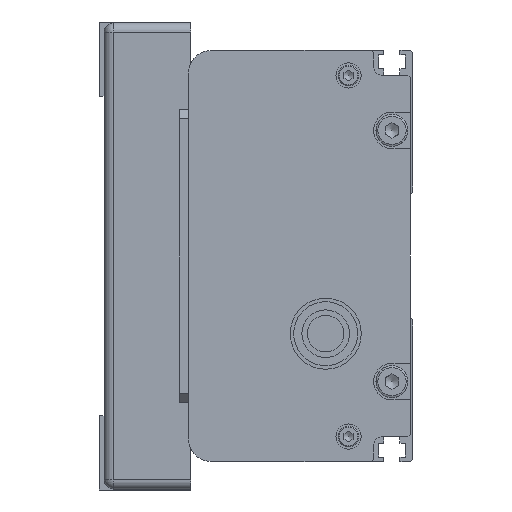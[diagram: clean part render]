
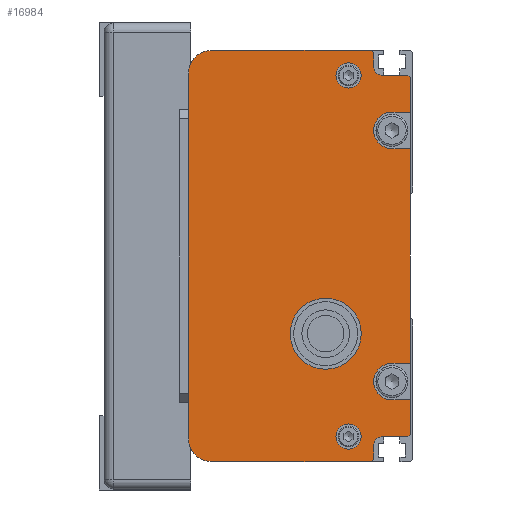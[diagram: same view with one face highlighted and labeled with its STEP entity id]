
A CAD part, left-side view. The second image highlights one B-rep face of the part: STEP entity #16984.
In plain terms, the highlighted planar face has unit normal (-1, 0, 0) as drawn and (0, 0, -1) by its records, which use the part's own axes.
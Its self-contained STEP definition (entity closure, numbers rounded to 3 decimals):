
#1080=FACE_BOUND('',#2490,.T.);
#1081=FACE_BOUND('',#2491,.T.);
#1082=FACE_BOUND('',#2492,.T.);
#1416=FACE_OUTER_BOUND('',#2489,.T.);
#2489=EDGE_LOOP('',(#11801,#11802,#11803,#11804,#11805,#11806,#11807,#11808,
#11809,#11810,#11811,#11812,#11813,#11814,#11815,#11816,#11817,#11818,#11819,
#11820,#11821,#11822,#11823,#11824));
#2490=EDGE_LOOP('',(#11825));
#2491=EDGE_LOOP('',(#11826));
#2492=EDGE_LOOP('',(#11827));
#3783=LINE('',#24613,#5281);
#3809=LINE('',#24680,#5307);
#3811=LINE('',#24685,#5309);
#3812=LINE('',#24687,#5310);
#3813=LINE('',#24690,#5311);
#3814=LINE('',#24692,#5312);
#3815=LINE('',#24694,#5313);
#3816=LINE('',#24698,#5314);
#3817=LINE('',#24700,#5315);
#3818=LINE('',#24702,#5316);
#3819=LINE('',#24706,#5317);
#3820=LINE('',#24708,#5318);
#3821=LINE('',#24710,#5319);
#3822=LINE('',#24712,#5320);
#3823=LINE('',#24716,#5321);
#3824=LINE('',#24718,#5322);
#3825=LINE('',#24719,#5323);
#3826=LINE('',#24720,#5324);
#5281=VECTOR('',#19996,80.);
#5307=VECTOR('',#20048,0.707);
#5309=VECTOR('',#20052,0.707);
#5310=VECTOR('',#20053,3.);
#5311=VECTOR('',#20056,5.5);
#5312=VECTOR('',#20057,7.5);
#5313=VECTOR('',#20058,4.);
#5314=VECTOR('',#20061,4.);
#5315=VECTOR('',#20062,47.);
#5316=VECTOR('',#20063,4.);
#5317=VECTOR('',#20066,4.);
#5318=VECTOR('',#20067,7.5);
#5319=VECTOR('',#20068,0.707);
#5320=VECTOR('',#20069,5.5);
#5321=VECTOR('',#20072,3.);
#5322=VECTOR('',#20073,0.707);
#5323=VECTOR('',#20074,35.);
#5324=VECTOR('',#20075,35.);
#6670=CIRCLE('',#18142,5.);
#6673=CIRCLE('',#18149,5.);
#6675=CIRCLE('',#18155,2.);
#6676=CIRCLE('',#18156,4.);
#6677=CIRCLE('',#18157,4.);
#6678=CIRCLE('',#18158,2.);
#6679=CIRCLE('',#18159,7.769);
#6680=CIRCLE('',#18160,2.75);
#6681=CIRCLE('',#18161,2.75);
#7277=VERTEX_POINT('',#24610);
#7278=VERTEX_POINT('',#24612);
#7279=VERTEX_POINT('',#24616);
#7282=VERTEX_POINT('',#24627);
#7305=VERTEX_POINT('',#24677);
#7306=VERTEX_POINT('',#24679);
#7307=VERTEX_POINT('',#24683);
#7308=VERTEX_POINT('',#24684);
#7309=VERTEX_POINT('',#24686);
#7310=VERTEX_POINT('',#24688);
#7311=VERTEX_POINT('',#24691);
#7312=VERTEX_POINT('',#24693);
#7313=VERTEX_POINT('',#24695);
#7314=VERTEX_POINT('',#24697);
#7315=VERTEX_POINT('',#24699);
#7316=VERTEX_POINT('',#24701);
#7317=VERTEX_POINT('',#24703);
#7318=VERTEX_POINT('',#24705);
#7319=VERTEX_POINT('',#24707);
#7320=VERTEX_POINT('',#24709);
#7321=VERTEX_POINT('',#24711);
#7322=VERTEX_POINT('',#24713);
#7323=VERTEX_POINT('',#24715);
#7324=VERTEX_POINT('',#24717);
#7325=VERTEX_POINT('',#24721);
#7326=VERTEX_POINT('',#24723);
#7327=VERTEX_POINT('',#24725);
#9063=EDGE_CURVE('',#7277,#7278,#3783,.T.);
#9065=EDGE_CURVE('',#7278,#7279,#6670,.T.);
#9070=EDGE_CURVE('',#7282,#7277,#6673,.T.);
#9094=EDGE_CURVE('',#7305,#7306,#3809,.T.);
#9096=EDGE_CURVE('',#7307,#7308,#3811,.T.);
#9097=EDGE_CURVE('',#7307,#7309,#3812,.T.);
#9098=EDGE_CURVE('',#7309,#7310,#6675,.T.);
#9099=EDGE_CURVE('',#7310,#7306,#3813,.T.);
#9100=EDGE_CURVE('',#7311,#7305,#3814,.T.);
#9101=EDGE_CURVE('',#7311,#7312,#3815,.T.);
#9102=EDGE_CURVE('',#7312,#7313,#6676,.T.);
#9103=EDGE_CURVE('',#7313,#7314,#3816,.T.);
#9104=EDGE_CURVE('',#7315,#7314,#3817,.T.);
#9105=EDGE_CURVE('',#7315,#7316,#3818,.T.);
#9106=EDGE_CURVE('',#7316,#7317,#6677,.T.);
#9107=EDGE_CURVE('',#7317,#7318,#3819,.T.);
#9108=EDGE_CURVE('',#7319,#7318,#3820,.T.);
#9109=EDGE_CURVE('',#7320,#7319,#3821,.T.);
#9110=EDGE_CURVE('',#7320,#7321,#3822,.T.);
#9111=EDGE_CURVE('',#7321,#7322,#6678,.T.);
#9112=EDGE_CURVE('',#7322,#7323,#3823,.T.);
#9113=EDGE_CURVE('',#7324,#7323,#3824,.T.);
#9114=EDGE_CURVE('',#7279,#7324,#3825,.T.);
#9115=EDGE_CURVE('',#7308,#7282,#3826,.T.);
#9116=EDGE_CURVE('',#7325,#7325,#6679,.T.);
#9117=EDGE_CURVE('',#7326,#7326,#6680,.T.);
#9118=EDGE_CURVE('',#7327,#7327,#6681,.T.);
#11801=ORIENTED_EDGE('',*,*,#9096,.F.);
#11802=ORIENTED_EDGE('',*,*,#9097,.T.);
#11803=ORIENTED_EDGE('',*,*,#9098,.T.);
#11804=ORIENTED_EDGE('',*,*,#9099,.T.);
#11805=ORIENTED_EDGE('',*,*,#9094,.F.);
#11806=ORIENTED_EDGE('',*,*,#9100,.F.);
#11807=ORIENTED_EDGE('',*,*,#9101,.T.);
#11808=ORIENTED_EDGE('',*,*,#9102,.T.);
#11809=ORIENTED_EDGE('',*,*,#9103,.T.);
#11810=ORIENTED_EDGE('',*,*,#9104,.F.);
#11811=ORIENTED_EDGE('',*,*,#9105,.T.);
#11812=ORIENTED_EDGE('',*,*,#9106,.T.);
#11813=ORIENTED_EDGE('',*,*,#9107,.T.);
#11814=ORIENTED_EDGE('',*,*,#9108,.F.);
#11815=ORIENTED_EDGE('',*,*,#9109,.F.);
#11816=ORIENTED_EDGE('',*,*,#9110,.T.);
#11817=ORIENTED_EDGE('',*,*,#9111,.T.);
#11818=ORIENTED_EDGE('',*,*,#9112,.T.);
#11819=ORIENTED_EDGE('',*,*,#9113,.F.);
#11820=ORIENTED_EDGE('',*,*,#9114,.F.);
#11821=ORIENTED_EDGE('',*,*,#9065,.F.);
#11822=ORIENTED_EDGE('',*,*,#9063,.F.);
#11823=ORIENTED_EDGE('',*,*,#9070,.F.);
#11824=ORIENTED_EDGE('',*,*,#9115,.F.);
#11825=ORIENTED_EDGE('',*,*,#9116,.T.);
#11826=ORIENTED_EDGE('',*,*,#9117,.T.);
#11827=ORIENTED_EDGE('',*,*,#9118,.T.);
#16372=PLANE('',#18154);
#16984=ADVANCED_FACE('',(#1416,#1080,#1081,#1082),#16372,.F.);
#18142=AXIS2_PLACEMENT_3D('',#24617,#20000,#20001);
#18149=AXIS2_PLACEMENT_3D('',#24629,#20016,#20017);
#18154=AXIS2_PLACEMENT_3D('',#24682,#20050,#20051);
#18155=AXIS2_PLACEMENT_3D('',#24689,#20054,#20055);
#18156=AXIS2_PLACEMENT_3D('',#24696,#20059,#20060);
#18157=AXIS2_PLACEMENT_3D('',#24704,#20064,#20065);
#18158=AXIS2_PLACEMENT_3D('',#24714,#20070,#20071);
#18159=AXIS2_PLACEMENT_3D('',#24722,#20076,#20077);
#18160=AXIS2_PLACEMENT_3D('',#24724,#20078,#20079);
#18161=AXIS2_PLACEMENT_3D('',#24726,#20080,#20081);
#19996=DIRECTION('',(-1.,0.,0.));
#20000=DIRECTION('center_axis',(0.,0.,1.));
#20001=DIRECTION('ref_axis',(0.,1.,0.));
#20016=DIRECTION('center_axis',(0.,0.,1.));
#20017=DIRECTION('ref_axis',(1.,0.,0.));
#20048=DIRECTION('',(0.707,0.707,0.));
#20050=DIRECTION('center_axis',(0.,0.,1.));
#20051=DIRECTION('ref_axis',(1.,0.,0.));
#20052=DIRECTION('',(0.707,0.707,0.));
#20053=DIRECTION('',(-1.,0.,0.));
#20054=DIRECTION('center_axis',(0.,0.,1.));
#20055=DIRECTION('ref_axis',(0.,1.,0.));
#20056=DIRECTION('',(0.,-1.,0.));
#20057=DIRECTION('',(1.,0.,0.));
#20058=DIRECTION('',(0.,1.,0.));
#20059=DIRECTION('center_axis',(0.,0.,1.));
#20060=DIRECTION('ref_axis',(-1.,0.,0.));
#20061=DIRECTION('',(0.,-1.,0.));
#20062=DIRECTION('',(1.,0.,0.));
#20063=DIRECTION('',(0.,1.,0.));
#20064=DIRECTION('center_axis',(0.,0.,1.));
#20065=DIRECTION('ref_axis',(-1.,0.,0.));
#20066=DIRECTION('',(0.,-1.,0.));
#20067=DIRECTION('',(1.,0.,0.));
#20068=DIRECTION('',(0.707,-0.707,0.));
#20069=DIRECTION('',(0.,1.,0.));
#20070=DIRECTION('center_axis',(0.,0.,1.));
#20071=DIRECTION('ref_axis',(-1.,0.,0.));
#20072=DIRECTION('',(-1.,0.,0.));
#20073=DIRECTION('',(0.707,-0.707,0.));
#20074=DIRECTION('',(0.,-1.,0.));
#20075=DIRECTION('',(0.,1.,0.));
#20076=DIRECTION('center_axis',(0.,0.,1.));
#20077=DIRECTION('ref_axis',(0.766,-0.643,0.));
#20078=DIRECTION('center_axis',(0.,0.,1.));
#20079=DIRECTION('ref_axis',(-1.,0.,0.));
#20080=DIRECTION('center_axis',(0.,0.,1.));
#20081=DIRECTION('ref_axis',(-1.,0.,0.));
#24610=CARTESIAN_POINT('',(37.988,51.846,-547.249));
#24612=CARTESIAN_POINT('',(-42.012,51.846,-547.249));
#24613=CARTESIAN_POINT('',(37.988,51.846,-547.249));
#24616=CARTESIAN_POINT('',(-47.012,46.846,-547.249));
#24617=CARTESIAN_POINT('Origin',(-42.012,46.846,-547.249));
#24627=CARTESIAN_POINT('',(42.988,46.846,-547.249));
#24629=CARTESIAN_POINT('Origin',(37.988,46.846,-547.249));
#24677=CARTESIAN_POINT('',(36.988,3.346,-547.249));
#24679=CARTESIAN_POINT('',(37.488,3.846,-547.249));
#24680=CARTESIAN_POINT('',(36.988,3.346,-547.249));
#24682=CARTESIAN_POINT('Origin',(-2.012,27.249,-547.249));
#24683=CARTESIAN_POINT('',(42.488,11.346,-547.249));
#24684=CARTESIAN_POINT('',(42.988,11.846,-547.249));
#24685=CARTESIAN_POINT('',(42.488,11.346,-547.249));
#24686=CARTESIAN_POINT('',(39.488,11.346,-547.249));
#24687=CARTESIAN_POINT('',(42.488,11.346,-547.249));
#24688=CARTESIAN_POINT('',(37.488,9.346,-547.249));
#24689=CARTESIAN_POINT('Origin',(39.488,9.346,-547.249));
#24690=CARTESIAN_POINT('',(37.488,9.346,-547.249));
#24691=CARTESIAN_POINT('',(29.488,3.346,-547.249));
#24692=CARTESIAN_POINT('',(29.488,3.346,-547.249));
#24693=CARTESIAN_POINT('',(29.488,7.346,-547.249));
#24694=CARTESIAN_POINT('',(29.488,3.346,-547.249));
#24695=CARTESIAN_POINT('',(21.488,7.346,-547.249));
#24696=CARTESIAN_POINT('Origin',(25.488,7.346,-547.249));
#24697=CARTESIAN_POINT('',(21.488,3.346,-547.249));
#24698=CARTESIAN_POINT('',(21.488,7.346,-547.249));
#24699=CARTESIAN_POINT('',(-25.512,3.346,-547.249));
#24700=CARTESIAN_POINT('',(-25.512,3.346,-547.249));
#24701=CARTESIAN_POINT('',(-25.512,7.346,-547.249));
#24702=CARTESIAN_POINT('',(-25.512,3.346,-547.249));
#24703=CARTESIAN_POINT('',(-33.512,7.346,-547.249));
#24704=CARTESIAN_POINT('Origin',(-29.512,7.346,-547.249));
#24705=CARTESIAN_POINT('',(-33.512,3.346,-547.249));
#24706=CARTESIAN_POINT('',(-33.512,7.346,-547.249));
#24707=CARTESIAN_POINT('',(-41.012,3.346,-547.249));
#24708=CARTESIAN_POINT('',(-41.012,3.346,-547.249));
#24709=CARTESIAN_POINT('',(-41.512,3.846,-547.249));
#24710=CARTESIAN_POINT('',(-41.512,3.846,-547.249));
#24711=CARTESIAN_POINT('',(-41.512,9.346,-547.249));
#24712=CARTESIAN_POINT('',(-41.512,3.846,-547.249));
#24713=CARTESIAN_POINT('',(-43.512,11.346,-547.249));
#24714=CARTESIAN_POINT('Origin',(-43.512,9.346,-547.249));
#24715=CARTESIAN_POINT('',(-46.512,11.346,-547.249));
#24716=CARTESIAN_POINT('',(-43.512,11.346,-547.249));
#24717=CARTESIAN_POINT('',(-47.012,11.846,-547.249));
#24718=CARTESIAN_POINT('',(-47.012,11.846,-547.249));
#24719=CARTESIAN_POINT('',(-47.012,46.846,-547.249));
#24720=CARTESIAN_POINT('',(42.988,11.846,-547.249));
#24721=CARTESIAN_POINT('',(20.939,16.853,-547.249));
#24722=CARTESIAN_POINT('Origin',(14.988,21.846,-547.249));
#24723=CARTESIAN_POINT('',(34.738,16.846,-547.249));
#24724=CARTESIAN_POINT('Origin',(37.488,16.846,-547.249));
#24725=CARTESIAN_POINT('',(-44.262,16.846,-547.249));
#24726=CARTESIAN_POINT('Origin',(-41.512,16.846,-547.249));
